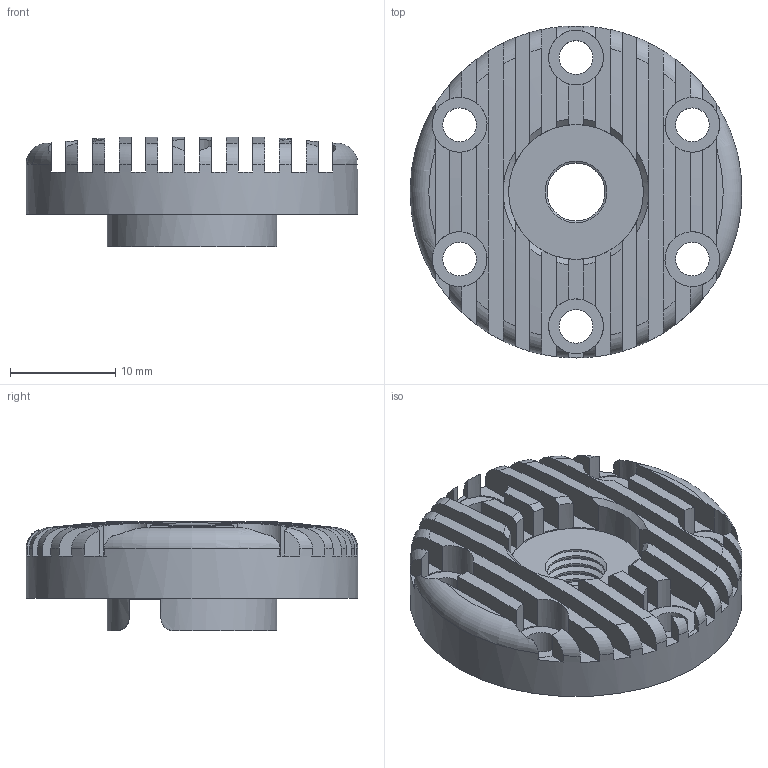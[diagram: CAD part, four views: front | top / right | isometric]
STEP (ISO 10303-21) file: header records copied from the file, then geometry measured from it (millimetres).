
FILE_DESCRIPTION( ( '' ), ' ' );
FILE_NAME( '/vol/tmp/translate-5013593387685061075/5ae2e58b7e06230fac06322a.step', '2018-04-27T08:55:40', ( '' ), ( '' ), ' ', ' ', ' ' );
FILE_SCHEMA( ( 'AUTOMOTIVE_DESIGN { 1 0 10303 214 1 1 1 1 }' ) );
Length unit declared in the file: metre
Products named in the file (1): Cylinder Head
Bounding box: 31.5 x 31.5 x 10.41 mm (x, y, z)
Volume: 3739.2 mm3; surface area: 3787.7 mm2
Topology: 1 solids, 1 shells, 184 faces, 533 edges, 350 vertices
Faces by surface type: plane 93, cylinder 29, torus 22, sphere 20, cone 20
Full cylindrical faces by diameter (mm): 3.2 x6, 5.2 x6, 5.5 x5, 6.36 x5, 12.8 x1, 16.1 x1, 31.5 x1
Entity records: 8017 total; most frequent: CARTESIAN_POINT 1903, ORIENTED_EDGE 966, DIRECTION 951, EDGE_CURVE 483, AXIS2_PLACEMENT_3D 386, VERTEX_POINT 336, EDGE_LOOP 235, FACE_OUTER_BOUND 210
